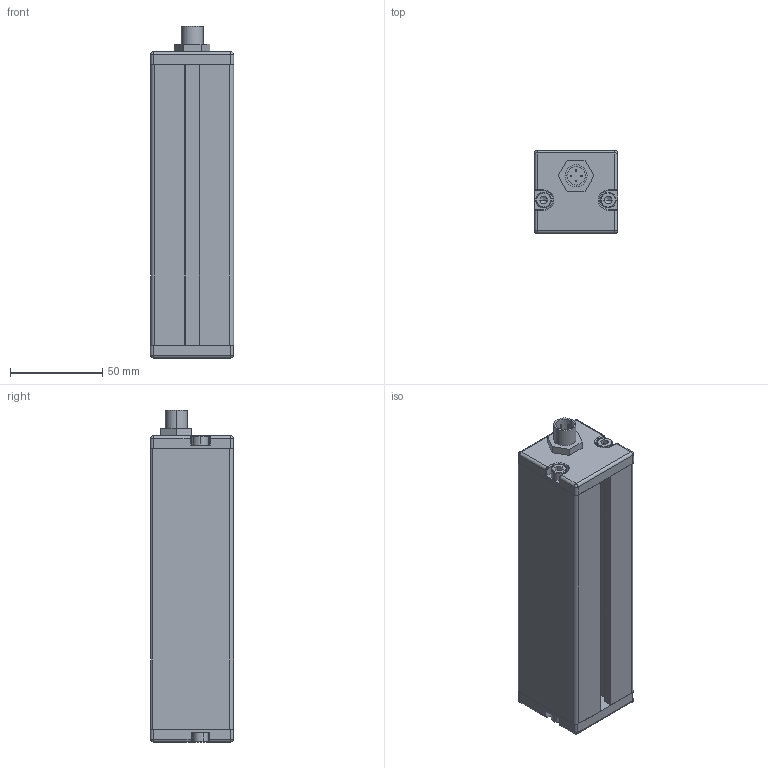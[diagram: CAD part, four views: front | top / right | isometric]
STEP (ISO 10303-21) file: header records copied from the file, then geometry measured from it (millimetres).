
FILE_DESCRIPTION (( 'STEP AP214' ), '1' );
FILE_NAME ('NBAR6.STEP', '2012-01-13T13:53:47', ( 'JRLEDS' ), ( '' ), 'SwSTEP 2.0', 'SolidWorks 2010', '' );
FILE_SCHEMA (( 'AUTOMOTIVE_DESIGN' ));
Length unit declared in the file: millimetre
Products named in the file (8): CIR6LED; Embout ALU; PROT-NBAR6; screw_din_912-m5x0_8-10-8_8_Default; Embout percé ALU; SW3DPS-FISCHER_DBP_103_Z053-130-DEFAULT; NBAR6; PROF-NBAR6
Assembly tree (10 placements, depth 2):
  NBAR6
    screw_din_912-m5x0_8-10-8_8_Default  x4
    PROT-NBAR6
    Embout ALU
    CIR6LED
    Embout percé ALU
    SW3DPS-FISCHER_DBP_103_Z053-130-DEFAULT
    PROF-NBAR6
Bounding box: 45.1 x 45 x 180 mm (x, y, z)
Volume: 126306.7 mm3; surface area: 109422.1 mm2
Topology: 16 solids, 16 shells, 303 faces, 726 edges, 454 vertices
Faces by surface type: plane 162, cylinder 103, cone 16, torus 14, sphere 8
Entity records: 9068 total; most frequent: DIRECTION 1296, CARTESIAN_POINT 1274, ORIENTED_EDGE 1180, EDGE_CURVE 590, AXIS2_PLACEMENT_3D 453, LINE 390, VECTOR 390, VERTEX_POINT 379
